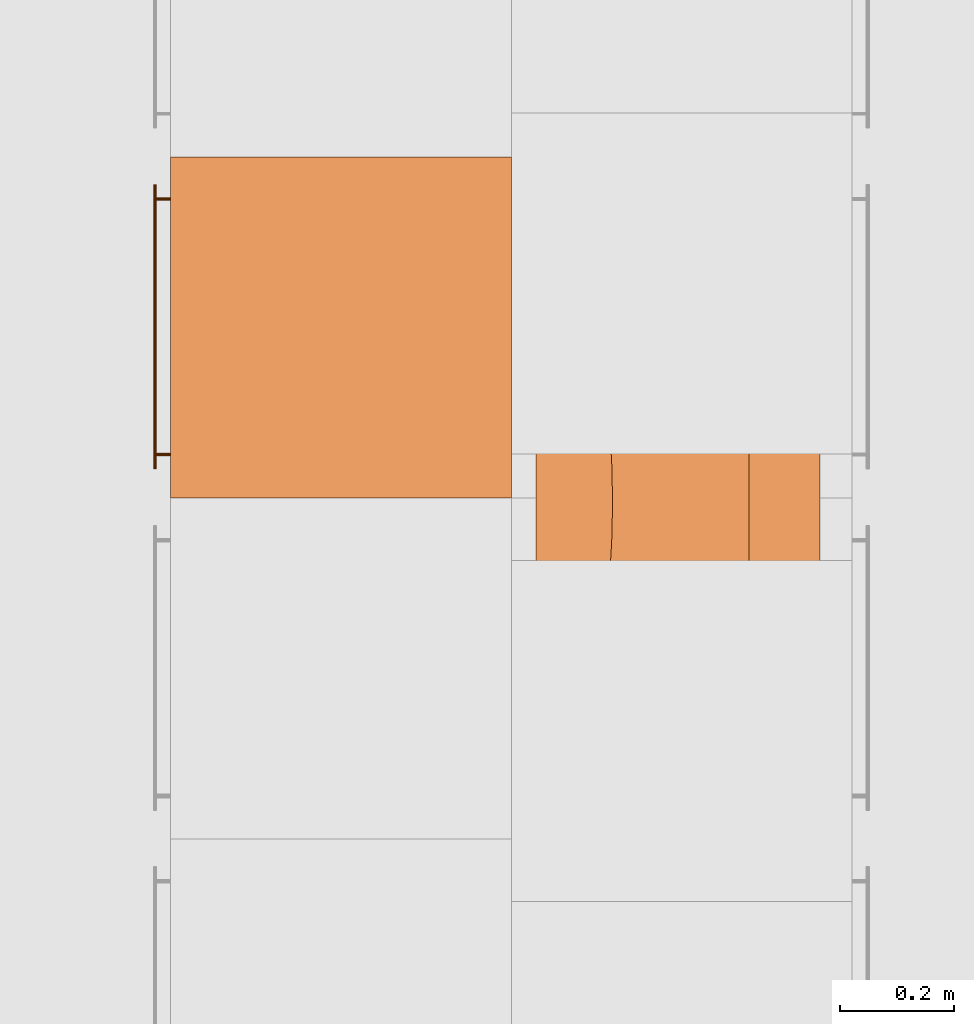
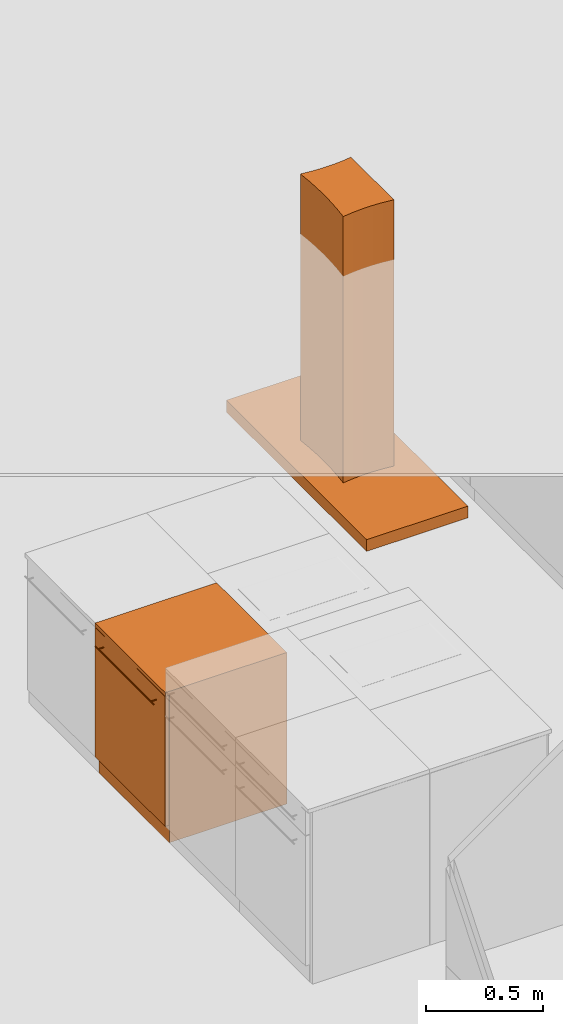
# One storey, part 143 of 167: 2 proxies.
"""IFC2X3 building model written with IfcOpenShell, lengths in millimetres."""

from ifc_helpers import new_model, entity, si_unit, converted_unit, derived_unit, money_unit, direction, frame, origin_with_axes, place, context, subcontext, project, spatial, open_shell, faceted_brep, surface_model, type_object, element, save


model = new_model("IFC2X3")

# Units and contexts
model_context = context("Model", 3, precision=0.01, world=origin_with_axes(), true_north=direction((0.0, 1.0)))
plan_context = context("Plan", 3, precision=0.01, world=origin_with_axes(), true_north=direction((0.0, 1.0)))
body_context = subcontext(model_context, "Body", "Model", "MODEL_VIEW")
ifc_project = project(units=[si_unit("LENGTHUNIT", "METRE", prefix="MILLI"), si_unit("AREAUNIT", "SQUARE_METRE"), si_unit("VOLUMEUNIT", "CUBIC_METRE"), converted_unit("PLANEANGLEUNIT", "DEGREE", entity("IfcPlaneAngleMeasure", 0.0174532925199), si_unit("PLANEANGLEUNIT", "RADIAN"), dimensions=[0, 0, 0, 0, 0, 0, 0]), si_unit("SOLIDANGLEUNIT", "STERADIAN"), money_unit("EUR"), converted_unit("TIMEUNIT", "Year", entity("IfcTimeMeasure", 31556926.0), si_unit("TIMEUNIT", "SECOND"), dimensions=[0, 0, 1, 0, 0, 0, 0]), si_unit("MASSUNIT", "GRAM", prefix="KILO"), si_unit("THERMODYNAMICTEMPERATUREUNIT", "DEGREE_CELSIUS"), si_unit("LUMINOUSINTENSITYUNIT", "LUMEN"), si_unit("ENERGYUNIT", "JOULE", prefix="MEGA"), derived_unit("THERMALCONDUCTANCEUNIT", [(si_unit("POWERUNIT", "WATT"), 1), (si_unit("LENGTHUNIT", "METRE"), -1), (si_unit("THERMODYNAMICTEMPERATUREUNIT", "KELVIN"), -1)]), derived_unit("SPECIFICHEATCAPACITYUNIT", [(si_unit("ENERGYUNIT", "JOULE"), 1), (si_unit("MASSUNIT", "GRAM", prefix="KILO"), -1), (si_unit("THERMODYNAMICTEMPERATUREUNIT", "KELVIN"), -1)]), derived_unit("MASSDENSITYUNIT", [(si_unit("MASSUNIT", "GRAM", prefix="KILO"), 1), (si_unit("VOLUMEUNIT", "CUBIC_METRE"), -1)])], contexts=[model_context, plan_context])

# Site, building, storey
site_placement = place(None, origin_with_axes())
site = spatial("IfcSite", under=ifc_project, at=site_placement, Name="Site", CompositionType="ELEMENT")
building_placement = place(site_placement, origin_with_axes())
building = spatial("IfcBuilding", under=site, at=building_placement, Name="Naam gebouw", CompositionType="ELEMENT")
storey_placement = place(building_placement, origin_with_axes())
storey = spatial("IfcBuildingStorey", under=building, at=storey_placement, Name="Begane grond", CompositionType="ELEMENT", Elevation=0.0)

# Proxies
building_element_proxy_type_1 = type_object("IfcBuildingElementProxyType", Name="Kast basis 1D 24", PredefinedType="NOTDEFINED")
proxy_1_placement = place(storey_placement, frame((25475.0, 27666.7322881, 0.0), z_axis=(0.0, 0.0, 1.0), x_axis=(0.0, -1.0, 0.0)))
element("IfcBuildingElementProxy", 1, at=proxy_1_placement, inside=storey, type_object=building_element_proxy_type_1, Name="__Object-x", context=body_context, shape_type="SurfaceModel", body=[
    faceted_brep([(0.0, 20.0, 0.0), (600.0, 20.0, 0.0), (600.0, 20.0, 90.0), (0.0, 20.0, 90.0), (0.0, 600.0, 0.0), (600.0, 600.0, 0.0), (600.0, 600.0, 90.0), (0.0, 600.0, 90.0)], [[[0, 1, 2, 3]], [[0, 4, 5, 1]], [[1, 5, 6, 2]], [[3, 2, 6, 7]], [[4, 0, 3, 7]], [[5, 4, 7, 6]]]),
    faceted_brep([(0.0, 20.0, 750.0), (20.0, 20.0, 750.0), (20.0, 20.0, 770.0), (0.0, 20.0, 770.0), (0.0, 600.0, 750.0), (20.0, 600.0, 750.0), (580.0, 600.0, 750.0), (600.0, 600.0, 750.0), (600.0, 20.0, 750.0), (580.0, 20.0, 750.0), (580.0, 20.0, 770.0), (600.0, 20.0, 770.0), (600.0, 600.0, 770.0), (580.0, 600.0, 770.0), (20.0, 600.0, 770.0), (0.0, 600.0, 770.0)], [[[0, 1, 2, 3]], [[0, 4, 5, 6, 7, 8, 9, 1]], [[1, 9, 10, 2]], [[3, 2, 10, 11, 12, 13, 14, 15]], [[4, 0, 3, 15]], [[5, 4, 15, 14]], [[6, 5, 14, 13]], [[7, 6, 13, 12]], [[8, 7, 12, 11]], [[9, 8, 11, 10]]]),
    faceted_brep([(0.0, 20.0, 90.0), (20.0, 20.0, 90.0), (20.0, 20.0, 110.0), (0.0, 20.0, 110.0), (0.0, 600.0, 90.0), (20.0, 600.0, 90.0), (580.0, 600.0, 90.0), (600.0, 600.0, 90.0), (600.0, 20.0, 90.0), (580.0, 20.0, 90.0), (580.0, 20.0, 110.0), (600.0, 20.0, 110.0), (600.0, 600.0, 110.0), (580.0, 600.0, 110.0), (20.0, 600.0, 110.0), (0.0, 600.0, 110.0)], [[[0, 1, 2, 3]], [[0, 4, 5, 6, 7, 8, 9, 1]], [[1, 9, 10, 2]], [[3, 2, 10, 11, 12, 13, 14, 15]], [[4, 0, 3, 15]], [[5, 4, 15, 14]], [[6, 5, 14, 13]], [[7, 6, 13, 12]], [[8, 7, 12, 11]], [[9, 8, 11, 10]]]),
    faceted_brep([(0.0, 20.0, 110.0), (20.0, 20.0, 110.0), (20.0, 20.0, 750.0), (0.0, 20.0, 750.0), (0.0, 600.0, 110.0), (600.0, 600.0, 110.0), (600.0, 20.0, 110.0), (580.0, 20.0, 110.0), (580.0, 580.0, 110.0), (20.0, 580.0, 110.0), (20.0, 580.0, 750.0), (580.0, 580.0, 750.0), (580.0, 20.0, 750.0), (600.0, 20.0, 750.0), (600.0, 600.0, 750.0), (0.0, 600.0, 750.0)], [[[0, 1, 2, 3]], [[0, 4, 5, 6, 7, 8, 9, 1]], [[1, 9, 10, 2]], [[3, 2, 10, 11, 12, 13, 14, 15]], [[4, 0, 3, 15]], [[5, 4, 15, 14]], [[6, 5, 14, 13]], [[7, 6, 13, 12]], [[8, 7, 12, 11]], [[9, 8, 11, 10]]]),
    faceted_brep([(580.0, 20.0, 410.0), (580.0, 580.0, 410.0), (580.0, 580.0, 430.0), (580.0, 20.0, 430.0), (20.0, 20.0, 410.0), (20.0, 580.0, 410.0), (20.0, 580.0, 430.0), (20.0, 20.0, 430.0)], [[[0, 1, 2, 3]], [[0, 4, 5, 1]], [[1, 5, 6, 2]], [[3, 2, 6, 7]], [[4, 0, 3, 7]], [[5, 4, 7, 6]]]),
    faceted_brep([(0.0, 0.0, 770.0), (600.0, 0.0, 770.0), (600.0, 0.0, 790.0), (0.0, 0.0, 790.0), (0.0, 600.0, 770.0), (600.0, 600.0, 770.0), (600.0, 600.0, 790.0), (0.0, 600.0, 790.0)], [[[0, 1, 2, 3]], [[0, 4, 5, 1]], [[1, 5, 6, 2]], [[3, 2, 6, 7]], [[4, 0, 3, 7]], [[5, 4, 7, 6]]]),
    faceted_brep([(1.5, 20.0, 91.5), (598.5, 20.0, 91.5), (598.5, 0.0, 91.5), (1.5, 0.0, 91.5), (1.5, 20.0, 768.5), (598.5, 20.0, 768.5), (598.5, 0.0, 768.5), (1.5, 0.0, 768.5)], [[[0, 1, 2, 3]], [[0, 4, 5, 1]], [[1, 5, 6, 2]], [[3, 2, 6, 7]], [[4, 0, 3, 7]], [[5, 4, 7, 6]]]),
    faceted_brep([(48.5, -28.1480502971, 704.694261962), (48.5, -29.1213203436, 705.344580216), (48.5, -29.7716385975, 706.317850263), (48.5, -30.0, 707.46590056), (48.5, -29.7716385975, 708.613950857), (48.5, -29.1213203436, 709.587220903), (48.5, -28.1480502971, 710.237539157), (48.5, -27.0, 710.46590056), (48.5, -25.8519497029, 710.237539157), (48.5, -24.8786796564, 709.587220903), (48.5, -24.2283614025, 708.613950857), (48.5, -24.0, 707.46590056), (48.5, -24.2283614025, 706.317850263), (48.5, -24.8786796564, 705.344580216), (48.5, -25.8519497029, 704.694261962), (48.5, -27.0, 704.46590056), (548.5, -28.1480502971, 704.694261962), (548.5, -29.1213203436, 705.344580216), (548.5, -29.7716385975, 706.317850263), (548.5, -30.0, 707.46590056), (548.5, -29.7716385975, 708.613950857), (548.5, -29.1213203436, 709.587220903), (548.5, -28.1480502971, 710.237539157), (548.5, -27.0, 710.46590056), (548.5, -25.8519497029, 710.237539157), (548.5, -24.8786796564, 709.587220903), (548.5, -24.2283614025, 708.613950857), (548.5, -24.0, 707.46590056), (548.5, -24.2283614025, 706.317850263), (548.5, -24.8786796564, 705.344580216), (548.5, -25.8519497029, 704.694261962), (548.5, -27.0, 704.46590056)], [[[0, 1, 2, 3, 4, 5, 6, 7, 8, 9, 10, 11, 12, 13, 14, 15]], [[1, 0, 16, 17]], [[2, 1, 17, 18]], [[3, 2, 18, 19]], [[4, 3, 19, 20]], [[5, 4, 20, 21]], [[6, 5, 21, 22]], [[7, 6, 22, 23]], [[8, 7, 23, 24]], [[9, 8, 24, 25]], [[10, 9, 25, 26]], [[11, 10, 26, 27]], [[12, 11, 27, 28]], [[13, 12, 28, 29]], [[14, 13, 29, 30]], [[15, 14, 30, 31]], [[0, 15, 31, 16]], [[16, 31, 30, 29, 28, 27, 26, 25, 24, 23, 22, 21, 20, 19, 18, 17]]]),
    surface_model("IfcShellBasedSurfaceModel", [(71.1903011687, -24.156637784, 706.509191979), (71.0, -24.0, 707.46590056), (71.0, 0.0, 707.46590056), (71.1903011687, 0.0, 706.509191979), (71.1903011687, -24.156637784, 708.422609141), (71.1903011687, 0.0, 708.422609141), (71.732233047, 0.0, 709.233667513), (72.5432914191, 0.0, 709.775599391), (73.5, 0.0, 709.96590056), (74.4567085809, 0.0, 709.775599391), (75.267766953, 0.0, 709.233667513), (75.8096988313, 0.0, 708.422609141), (76.0, 0.0, 707.46590056), (75.8096988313, 0.0, 706.509191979), (75.267766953, 0.0, 705.698133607), (74.4567085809, 0.0, 705.156201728), (73.5, 0.0, 704.96590056), (72.5432914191, 0.0, 705.156201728), (71.732233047, 0.0, 705.698133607), (71.732233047, -24.5761600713, 705.698133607), (71.732233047, -24.5761600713, 709.233667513), (72.5432914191, -25.0855049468, 709.775599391), (73.5, -25.3416876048, 709.96590056), (74.4567085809, -25.0855049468, 709.775599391), (75.267766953, -24.5761600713, 709.233667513), (75.8096988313, -24.156637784, 708.422609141), (76.0, -24.0, 707.46590056), (75.8096988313, -24.156637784, 706.509191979), (75.267766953, -24.5761600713, 705.698133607), (74.4567085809, -25.0855049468, 705.156201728), (73.5, -25.3416876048, 704.96590056), (72.5432914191, -25.0855049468, 705.156201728)], [open_shell([[[0, 1, 2, 3]], [[1, 4, 5, 2]], [[3, 2, 5, 6, 7, 8, 9, 10, 11, 12, 13, 14, 15, 16, 17, 18]], [[19, 0, 3, 18]], [[4, 20, 6, 5]], [[20, 21, 7, 6]], [[21, 22, 8, 7]], [[22, 23, 9, 8]], [[23, 24, 10, 9]], [[24, 25, 11, 10]], [[25, 26, 12, 11]], [[26, 27, 13, 12]], [[27, 28, 14, 13]], [[28, 29, 15, 14]], [[29, 30, 16, 15]], [[30, 31, 17, 16]], [[31, 19, 18, 17]]])]),
    surface_model("IfcShellBasedSurfaceModel", [(521.190301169, -24.156637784, 706.509191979), (521.0, -24.0, 707.46590056), (521.0, 0.0, 707.46590056), (521.190301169, 0.0, 706.509191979), (521.190301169, -24.156637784, 708.422609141), (521.190301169, 0.0, 708.422609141), (521.732233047, 0.0, 709.233667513), (522.543291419, 0.0, 709.775599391), (523.5, 0.0, 709.96590056), (524.456708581, 0.0, 709.775599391), (525.267766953, 0.0, 709.233667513), (525.809698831, 0.0, 708.422609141), (526.0, 0.0, 707.46590056), (525.809698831, 0.0, 706.509191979), (525.267766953, 0.0, 705.698133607), (524.456708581, 0.0, 705.156201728), (523.5, 0.0, 704.96590056), (522.543291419, 0.0, 705.156201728), (521.732233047, 0.0, 705.698133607), (521.732233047, -24.5761600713, 705.698133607), (521.732233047, -24.5761600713, 709.233667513), (522.543291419, -25.0855049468, 709.775599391), (523.5, -25.3416876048, 709.96590056), (524.456708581, -25.0855049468, 709.775599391), (525.267766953, -24.5761600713, 709.233667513), (525.809698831, -24.156637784, 708.422609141), (526.0, -24.0, 707.46590056), (525.809698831, -24.156637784, 706.509191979), (525.267766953, -24.5761600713, 705.698133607), (524.456708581, -25.0855049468, 705.156201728), (523.5, -25.3416876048, 704.96590056), (522.543291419, -25.0855049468, 705.156201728)], [open_shell([[[0, 1, 2, 3]], [[1, 4, 5, 2]], [[3, 2, 5, 6, 7, 8, 9, 10, 11, 12, 13, 14, 15, 16, 17, 18]], [[19, 0, 3, 18]], [[4, 20, 6, 5]], [[20, 21, 7, 6]], [[21, 22, 8, 7]], [[22, 23, 9, 8]], [[23, 24, 10, 9]], [[24, 25, 11, 10]], [[25, 26, 12, 11]], [[26, 27, 13, 12]], [[27, 28, 14, 13]], [[28, 29, 15, 14]], [[29, 30, 16, 15]], [[30, 31, 17, 16]], [[31, 19, 18, 17]]])]),
])
building_element_proxy_type_2 = type_object("IfcBuildingElementProxyType", Name="Afzuigkap 24", PredefinedType="NOTDEFINED")
proxy_2_placement = place(storey_placement, frame((26118.1779439, 27659.9378339, 1670.0), z_axis=(0.0, 0.0, 1.0), x_axis=(0.0, -1.0, 0.0)))
element("IfcBuildingElementProxy", 2, at=proxy_2_placement, inside=storey, type_object=building_element_proxy_type_2, Name="__FU - 004", context=body_context, shape_type="SurfaceModel", body=[
    faceted_brep([(6.66666666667, 0.0, 60.0), (1193.33333333, 0.0, 60.0), (1193.33333333, 0.0, 61.0), (6.66666666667, 0.0, 61.0), (6.66666666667, 0.5, 60.0), (0.666666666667, 0.5, 60.0), (0.666666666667, 5.0, 60.0), (0.0, 5.0, 60.0), (0.0, 495.0, 60.0), (0.666666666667, 495.0, 60.0), (0.666666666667, 499.5, 60.0), (6.66666666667, 499.5, 60.0), (6.66666666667, 500.0, 60.0), (1193.33333333, 500.0, 60.0), (1193.33333333, 499.5, 60.0), (1199.33333333, 499.5, 60.0), (1199.33333333, 495.0, 60.0), (1200.0, 495.0, 60.0), (1200.0, 5.0, 60.0), (1199.33333333, 5.0, 60.0), (1199.33333333, 0.5, 60.0), (1193.33333333, 0.5, 60.0), (1193.33333333, 0.5, 61.0), (1199.33333333, 0.5, 61.0), (1199.33333333, 5.0, 61.0), (1200.0, 5.0, 61.0), (1200.0, 495.0, 61.0), (1199.33333333, 495.0, 61.0), (1199.33333333, 499.5, 61.0), (1193.33333333, 499.5, 61.0), (1193.33333333, 500.0, 61.0), (6.66666666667, 500.0, 61.0), (6.66666666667, 499.5, 61.0), (0.666666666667, 499.5, 61.0), (0.666666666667, 495.0, 61.0), (0.0, 495.0, 61.0), (0.0, 5.0, 61.0), (0.666666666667, 5.0, 61.0), (0.666666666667, 0.5, 61.0), (6.66666666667, 0.5, 61.0)], [[[0, 1, 2, 3]], [[0, 4, 5, 6, 7, 8, 9, 10, 11, 12, 13, 14, 15, 16, 17, 18, 19, 20, 21, 1]], [[1, 21, 22, 2]], [[3, 2, 22, 23, 24, 25, 26, 27, 28, 29, 30, 31, 32, 33, 34, 35, 36, 37, 38, 39]], [[4, 0, 3, 39]], [[5, 4, 39, 38]], [[6, 5, 38, 37]], [[7, 6, 37, 36]], [[8, 7, 36, 35]], [[9, 8, 35, 34]], [[10, 9, 34, 33]], [[11, 10, 33, 32]], [[12, 11, 32, 31]], [[13, 12, 31, 30]], [[14, 13, 30, 29]], [[15, 14, 29, 28]], [[16, 15, 28, 27]], [[17, 16, 27, 26]], [[18, 17, 26, 25]], [[19, 18, 25, 24]], [[20, 19, 24, 23]], [[21, 20, 23, 22]]]),
    faceted_brep([(6.66666666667, 0.0, 0.0), (1193.33333333, 0.0, 0.0), (1193.33333333, 0.0, 60.0), (6.66666666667, 0.0, 60.0), (6.66666666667, 0.5, 0.0), (0.666666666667, 0.5, 0.0), (0.666666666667, 5.0, 0.0), (0.0, 5.0, 0.0), (0.0, 495.0, 0.0), (0.666666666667, 495.0, 0.0), (0.666666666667, 499.5, 0.0), (6.66666666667, 499.5, 0.0), (6.66666666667, 500.0, 0.0), (1193.33333333, 500.0, 0.0), (1193.33333333, 499.5, 0.0), (1199.33333333, 499.5, 0.0), (1199.33333333, 495.0, 0.0), (1200.0, 495.0, 0.0), (1200.0, 5.0, 0.0), (1199.33333333, 5.0, 0.0), (1199.33333333, 0.5, 0.0), (1193.33333333, 0.5, 0.0), (8.38406804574, 0.723624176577, 0.0), (1191.61593195, 0.723624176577, 0.0), (1191.61593195, 1.22217692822, 0.0), (1197.59856497, 1.22217692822, 0.0), (1197.59856497, 5.70915169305, 0.0), (1198.26330198, 5.70915169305, 0.0), (1198.26330198, 494.290848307, 0.0), (1197.59856497, 494.290848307, 0.0), (1197.59856497, 498.777823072, 0.0), (1191.61593195, 498.777823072, 0.0), (1191.61593195, 499.276375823, 0.0), (8.38406804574, 499.276375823, 0.0), (8.38406804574, 498.777823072, 0.0), (2.40143502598, 498.777823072, 0.0), (2.40143502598, 494.290848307, 0.0), (1.73669802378, 494.290848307, 0.0), (1.73669802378, 5.70915169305, 0.0), (2.40143502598, 5.70915169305, 0.0), (2.40143502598, 1.22217692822, 0.0), (8.38406804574, 1.22217692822, 0.0), (1193.33333333, 0.5, 60.0), (1199.33333333, 0.5, 60.0), (1199.33333333, 5.0, 60.0), (1200.0, 5.0, 60.0), (1200.0, 495.0, 60.0), (1199.33333333, 495.0, 60.0), (1199.33333333, 499.5, 60.0), (1193.33333333, 499.5, 60.0), (1193.33333333, 500.0, 60.0), (6.66666666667, 500.0, 60.0), (6.66666666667, 499.5, 60.0), (0.666666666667, 499.5, 60.0), (0.666666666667, 495.0, 60.0), (0.0, 495.0, 60.0), (0.0, 5.0, 60.0), (0.666666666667, 5.0, 60.0), (0.666666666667, 0.5, 60.0), (6.66666666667, 0.5, 60.0), (8.38406804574, 0.723624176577, 60.0), (8.38406804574, 1.22217692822, 60.0), (2.40143502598, 1.22217692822, 60.0), (2.40143502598, 5.70915169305, 60.0), (1.73669802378, 5.70915169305, 60.0), (1.73669802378, 494.290848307, 60.0), (2.40143502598, 494.290848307, 60.0), (2.40143502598, 498.777823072, 60.0), (8.38406804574, 498.777823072, 60.0), (8.38406804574, 499.276375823, 60.0), (1191.61593195, 499.276375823, 60.0), (1191.61593195, 498.777823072, 60.0), (1197.59856497, 498.777823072, 60.0), (1197.59856497, 494.290848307, 60.0), (1198.26330198, 494.290848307, 60.0), (1198.26330198, 5.70915169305, 60.0), (1197.59856497, 5.70915169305, 60.0), (1197.59856497, 1.22217692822, 60.0), (1191.61593195, 1.22217692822, 60.0), (1191.61593195, 0.723624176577, 60.0)], [[[0, 1, 2, 3]], [[0, 4, 5, 6, 7, 8, 9, 10, 11, 12, 13, 14, 15, 16, 17, 18, 19, 20, 21, 1], [22, 23, 24, 25, 26, 27, 28, 29, 30, 31, 32, 33, 34, 35, 36, 37, 38, 39, 40, 41]], [[1, 21, 42, 2]], [[3, 2, 42, 43, 44, 45, 46, 47, 48, 49, 50, 51, 52, 53, 54, 55, 56, 57, 58, 59], [60, 61, 62, 63, 64, 65, 66, 67, 68, 69, 70, 71, 72, 73, 74, 75, 76, 77, 78, 79]], [[4, 0, 3, 59]], [[5, 4, 59, 58]], [[6, 5, 58, 57]], [[7, 6, 57, 56]], [[8, 7, 56, 55]], [[9, 8, 55, 54]], [[10, 9, 54, 53]], [[11, 10, 53, 52]], [[12, 11, 52, 51]], [[13, 12, 51, 50]], [[14, 13, 50, 49]], [[15, 14, 49, 48]], [[16, 15, 48, 47]], [[17, 16, 47, 46]], [[18, 17, 46, 45]], [[19, 18, 45, 44]], [[20, 19, 44, 43]], [[21, 20, 43, 42]], [[23, 22, 60, 79]], [[24, 23, 79, 78]], [[25, 24, 78, 77]], [[26, 25, 77, 76]], [[27, 26, 76, 75]], [[28, 27, 75, 74]], [[29, 28, 74, 73]], [[30, 29, 73, 72]], [[31, 30, 72, 71]], [[32, 31, 71, 70]], [[33, 32, 70, 69]], [[34, 33, 69, 68]], [[35, 34, 68, 67]], [[36, 35, 67, 66]], [[37, 36, 66, 65]], [[38, 37, 65, 64]], [[39, 38, 64, 63]], [[40, 39, 63, 62]], [[41, 40, 62, 61]], [[22, 41, 61, 60]]]),
    surface_model("IfcShellBasedSurfaceModel", [(416.68, 125.01, 61.0), (416.666666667, 125.0, 61.0), (416.666666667, 125.0, 1450.0), (416.68, 125.01, 1450.0), (422.637755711, 174.899733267, 61.0), (425.626292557, 224.94985654, 61.0), (425.626292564, 275.05014322, 61.0), (422.637755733, 325.100266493, 61.0), (416.666666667, 375.0, 61.0), (416.68, 375.1, 61.0), (783.333333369, 375.000000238, 61.0), (777.362244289, 325.100266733, 61.0), (774.373707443, 275.05014346, 61.0), (774.373707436, 224.94985678, 61.0), (777.362244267, 174.899733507, 61.0), (783.333333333, 125.0, 61.0), (722.46128868, 130.551214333, 61.0), (661.302431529, 133.887151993, 61.0), (599.999999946, 135.0, 61.0), (538.697568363, 133.887151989, 61.0), (477.538711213, 130.551214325, 61.0), (477.538711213, 130.551214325, 1450.0), (538.697568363, 133.887151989, 1450.0), (599.999999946, 135.0, 1450.0), (661.302431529, 133.887151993, 1450.0), (722.46128868, 130.551214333, 1450.0), (783.333333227, 125.000000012, 1450.0), (777.362244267, 174.899733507, 1450.0), (774.373707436, 224.94985678, 1450.0), (774.373707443, 275.05014346, 1450.0), (777.362244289, 325.100266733, 1450.0), (783.333333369, 375.000000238, 1450.0), (416.68, 375.1, 1450.0), (416.666666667, 375.0, 1450.0), (422.637755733, 325.100266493, 1450.0), (425.626292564, 275.05014322, 1450.0), (425.626292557, 224.94985654, 1450.0), (422.637755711, 174.899733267, 1450.0), (416.666666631, 124.999999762, 1450.0), (416.666666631, 124.999999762, 61.0), (783.333333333, 125.0, 1450.0), (783.346666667, 125.01, 61.0), (783.346666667, 125.01, 1450.0), (783.333333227, 125.000000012, 61.0)], [open_shell([[[0, 1, 2, 3]], [[4, 5, 6, 7, 8, 9, 10, 11, 12, 13, 14, 15, 16, 17, 18, 19, 20, 1]], [[1, 20, 21, 2]], [[21, 22, 23, 24, 25, 26, 27, 28, 29, 30, 31, 32, 33, 34, 35, 36, 37, 38]], [[39, 0, 3, 38]], [[4, 39, 38, 37]], [[5, 4, 37, 36]], [[6, 5, 36, 35]], [[7, 6, 35, 34]], [[8, 7, 34, 33]], [[9, 8, 33, 32]], [[10, 9, 32, 31]], [[11, 10, 31, 30]], [[12, 11, 30, 29]], [[13, 12, 29, 28]], [[14, 13, 28, 27]], [[15, 14, 27, 40]], [[41, 15, 40, 42]], [[43, 41, 42, 26]], [[16, 43, 26, 25]], [[17, 16, 25, 24]], [[18, 17, 24, 23]], [[19, 18, 23, 22]], [[20, 19, 22, 21]]])]),
    faceted_brep([(1012.8, 61.9144671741, 0.0), (1016.4, 56.2763114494, -4.0), (1015.07490994, 56.2763114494, -4.0), (1012.6123649, 61.9144671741, 0.0), (1012.8, 29.1838214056, 0.0), (1016.4, 34.0919107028, -4.0), (1010.74385842, 35.8074666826, -4.0), (1005.81876836, 42.916221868, -4.0), (1007.52923419, 51.0, -4.0), (1001.29385128, 54.0, 0.0), (998.728152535, 41.874332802, 0.0), (1006.11578763, 31.2112000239, 0.0)], [[[0, 1, 2, 3]], [[1, 0, 4, 5]], [[1, 5, 6, 7, 8, 2]], [[2, 8, 9, 3]], [[4, 0, 3, 9, 10, 11]], [[5, 4, 11, 6]], [[7, 6, 11, 10]], [[8, 7, 10, 9]]]),
    faceted_brep([(1023.6, 56.2763114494, -4.0), (1027.2, 61.9144671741, 0.0), (1027.3876351, 61.9144671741, 0.0), (1024.92509006, 56.2763114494, -4.0), (1027.2, 29.1838214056, 0.0), (1023.6, 34.0919107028, -4.0), (1033.88421237, 31.2112000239, 0.0), (1041.27184747, 41.874332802, 0.0), (1038.70614872, 54.0, 0.0), (1032.47076581, 51.0, -4.0), (1034.18123164, 42.916221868, -4.0), (1029.25614158, 35.8074666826, -4.0)], [[[0, 1, 2, 3]], [[4, 1, 0, 5]], [[1, 4, 6, 7, 8, 2]], [[9, 3, 2, 8]], [[5, 0, 3, 9, 10, 11]], [[4, 5, 11, 6]], [[11, 10, 7, 6]], [[10, 9, 8, 7]]]),
    faceted_brep([(1027.2, 26.25, 0.0), (1027.2, 60.45, 0.0), (1012.8, 60.45, 0.0), (1012.8, 26.25, 0.0), (1023.6, 26.25, -4.0), (1023.6, 60.45, -4.0), (1020.0, 60.45, -6.0), (1016.4, 60.45, -4.0), (1016.4, 26.25, -4.0), (1020.0, 26.25, -6.0)], [[[0, 1, 2, 3]], [[4, 5, 1, 0]], [[1, 5, 6, 7, 2]], [[3, 2, 7, 8]], [[0, 3, 8, 9, 4]], [[9, 6, 5, 4]], [[8, 7, 6, 9]]]),
    faceted_brep([(1065.0, 35.25, 0.0), (1065.0, 35.25, -2.5), (1065.79081169, 33.6590097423, -2.5), (1065.79081169, 33.6590097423, 0.0), (1065.0, 54.75, 0.0), (1065.0, 54.75, -2.5), (1065.79081169, 56.3409902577, -2.5), (1067.7, 57.0, -2.5), (1080.3, 57.0, -2.5), (1082.20918831, 56.3409902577, -2.5), (1083.0, 54.75, -2.5), (1083.0, 35.25, -2.5), (1082.20918831, 33.6590097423, -2.5), (1080.3, 33.0, -2.5), (1067.7, 33.0, -2.5), (1067.7, 33.0, 0.0), (1080.3, 33.0, 0.0), (1082.20918831, 33.6590097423, 0.0), (1083.0, 35.25, 0.0), (1083.0, 54.75, 0.0), (1082.20918831, 56.3409902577, 0.0), (1080.3, 57.0, 0.0), (1067.7, 57.0, 0.0), (1065.79081169, 56.3409902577, 0.0)], [[[0, 1, 2, 3]], [[4, 5, 1, 0]], [[1, 5, 6, 7, 8, 9, 10, 11, 12, 13, 14, 2]], [[3, 2, 14, 15]], [[0, 3, 15, 16, 17, 18, 19, 20, 21, 22, 23, 4]], [[23, 6, 5, 4]], [[22, 7, 6, 23]], [[21, 8, 7, 22]], [[20, 9, 8, 21]], [[19, 10, 9, 20]], [[18, 11, 10, 19]], [[17, 12, 11, 18]], [[16, 13, 12, 17]], [[15, 14, 13, 16]]]),
    faceted_brep([(1080.3, 54.30111, -4.449545), (1067.7, 54.30111, -4.449545), (1067.7, 54.7499887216, -2.49997953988), (1080.3, 54.7499887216, -2.49997953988), (1080.3, 51.7434692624, -7.19463778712), (1067.7, 51.7434692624, -7.19463778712), (1067.7, 51.1956692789, -7.36964566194), (1067.7, 50.5987721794, -7.2944832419), (1067.7, 50.1845019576, -6.99831035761), (1067.7, 44.3847165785, -3.73378308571), (1067.7, 36.8310319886, -4.23127061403), (1067.7, 36.25096905, -4.29227992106), (1067.7, 35.7235586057, -4.12012231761), (1067.7, 35.4400922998, -3.77726526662), (1067.7, 35.25, -2.5), (1080.3, 35.25, -2.5), (1080.3, 35.4400922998, -3.77726526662), (1080.3, 35.7235586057, -4.12012231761), (1080.3, 36.25096905, -4.29227992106), (1080.3, 36.8310319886, -4.23127061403), (1080.3, 44.3847165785, -3.73378308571), (1080.3, 50.1845019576, -6.99831035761), (1080.3, 50.5987721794, -7.2944832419), (1080.3, 51.1956692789, -7.36964566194)], [[[0, 1, 2, 3]], [[4, 5, 1, 0]], [[1, 5, 6, 7, 8, 9, 10, 11, 12, 13, 14, 2]], [[3, 2, 14, 15]], [[0, 3, 15, 16, 17, 18, 19, 20, 21, 22, 23, 4]], [[23, 6, 5, 4]], [[22, 7, 6, 23]], [[21, 8, 7, 22]], [[20, 9, 8, 21]], [[19, 10, 9, 20]], [[18, 11, 10, 19]], [[17, 12, 11, 18]], [[16, 13, 12, 17]], [[15, 14, 13, 16]]]),
    faceted_brep([(1097.4, 35.25, 0.0), (1097.4, 35.25, -2.5), (1098.19081169, 33.6590097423, -2.5), (1098.19081169, 33.6590097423, 0.0), (1097.4, 54.75, 0.0), (1097.4, 54.75, -2.5), (1098.19081169, 56.3409902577, -2.5), (1100.1, 57.0, -2.5), (1112.7, 57.0, -2.5), (1114.60918831, 56.3409902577, -2.5), (1115.4, 54.75, -2.5), (1115.4, 35.25, -2.5), (1114.60918831, 33.6590097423, -2.5), (1112.7, 33.0, -2.5), (1100.1, 33.0, -2.5), (1100.1, 33.0, 0.0), (1112.7, 33.0, 0.0), (1114.60918831, 33.6590097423, 0.0), (1115.4, 35.25, 0.0), (1115.4, 54.75, 0.0), (1114.60918831, 56.3409902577, 0.0), (1112.7, 57.0, 0.0), (1100.1, 57.0, 0.0), (1098.19081169, 56.3409902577, 0.0)], [[[0, 1, 2, 3]], [[4, 5, 1, 0]], [[1, 5, 6, 7, 8, 9, 10, 11, 12, 13, 14, 2]], [[3, 2, 14, 15]], [[0, 3, 15, 16, 17, 18, 19, 20, 21, 22, 23, 4]], [[23, 6, 5, 4]], [[22, 7, 6, 23]], [[21, 8, 7, 22]], [[20, 9, 8, 21]], [[19, 10, 9, 20]], [[18, 11, 10, 19]], [[17, 12, 11, 18]], [[16, 13, 12, 17]], [[15, 14, 13, 16]]]),
    faceted_brep([(1112.7, 54.30111, -4.449545), (1100.1, 54.30111, -4.449545), (1100.1, 54.7499887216, -2.49997953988), (1112.7, 54.7499887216, -2.49997953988), (1112.7, 51.7434692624, -7.19463778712), (1100.1, 51.7434692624, -7.19463778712), (1100.1, 51.1956692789, -7.36964566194), (1100.1, 50.5987721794, -7.2944832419), (1100.1, 50.1845019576, -6.99831035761), (1100.1, 44.3847165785, -3.73378308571), (1100.1, 36.8310319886, -4.23127061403), (1100.1, 36.25096905, -4.29227992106), (1100.1, 35.7235586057, -4.12012231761), (1100.1, 35.4400922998, -3.77726526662), (1100.1, 35.25, -2.5), (1112.7, 35.25, -2.5), (1112.7, 35.4400922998, -3.77726526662), (1112.7, 35.7235586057, -4.12012231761), (1112.7, 36.25096905, -4.29227992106), (1112.7, 36.8310319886, -4.23127061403), (1112.7, 44.3847165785, -3.73378308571), (1112.7, 50.1845019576, -6.99831035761), (1112.7, 50.5987721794, -7.2944832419), (1112.7, 51.1956692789, -7.36964566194)], [[[0, 1, 2, 3]], [[4, 5, 1, 0]], [[1, 5, 6, 7, 8, 9, 10, 11, 12, 13, 14, 2]], [[3, 2, 14, 15]], [[0, 3, 15, 16, 17, 18, 19, 20, 21, 22, 23, 4]], [[23, 6, 5, 4]], [[22, 7, 6, 23]], [[21, 8, 7, 22]], [[20, 9, 8, 21]], [[19, 10, 9, 20]], [[18, 11, 10, 19]], [[17, 12, 11, 18]], [[16, 13, 12, 17]], [[15, 14, 13, 16]]]),
    faceted_brep([(1129.8, 35.25, 0.0), (1129.8, 35.25, -2.5), (1130.59081169, 33.6590097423, -2.5), (1130.59081169, 33.6590097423, 0.0), (1129.8, 54.75, 0.0), (1129.8, 54.75, -2.5), (1130.59081169, 56.3409902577, -2.5), (1132.5, 57.0, -2.5), (1145.1, 57.0, -2.5), (1147.00918831, 56.3409902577, -2.5), (1147.8, 54.75, -2.5), (1147.8, 35.25, -2.5), (1147.00918831, 33.6590097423, -2.5), (1145.1, 33.0, -2.5), (1132.5, 33.0, -2.5), (1132.5, 33.0, 0.0), (1145.1, 33.0, 0.0), (1147.00918831, 33.6590097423, 0.0), (1147.8, 35.25, 0.0), (1147.8, 54.75, 0.0), (1147.00918831, 56.3409902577, 0.0), (1145.1, 57.0, 0.0), (1132.5, 57.0, 0.0), (1130.59081169, 56.3409902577, 0.0)], [[[0, 1, 2, 3]], [[4, 5, 1, 0]], [[1, 5, 6, 7, 8, 9, 10, 11, 12, 13, 14, 2]], [[3, 2, 14, 15]], [[0, 3, 15, 16, 17, 18, 19, 20, 21, 22, 23, 4]], [[23, 6, 5, 4]], [[22, 7, 6, 23]], [[21, 8, 7, 22]], [[20, 9, 8, 21]], [[19, 10, 9, 20]], [[18, 11, 10, 19]], [[17, 12, 11, 18]], [[16, 13, 12, 17]], [[15, 14, 13, 16]]]),
    faceted_brep([(1145.1, 54.30111, -4.449545), (1132.5, 54.30111, -4.449545), (1132.5, 54.7499887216, -2.49997953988), (1145.1, 54.7499887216, -2.49997953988), (1145.1, 51.7434692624, -7.19463778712), (1132.5, 51.7434692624, -7.19463778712), (1132.5, 51.1956692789, -7.36964566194), (1132.5, 50.5987721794, -7.2944832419), (1132.5, 50.1845019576, -6.99831035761), (1132.5, 44.3847165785, -3.73378308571), (1132.5, 36.8310319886, -4.23127061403), (1132.5, 36.25096905, -4.29227992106), (1132.5, 35.7235586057, -4.12012231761), (1132.5, 35.4400922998, -3.77726526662), (1132.5, 35.25, -2.5), (1145.1, 35.25, -2.5), (1145.1, 35.4400922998, -3.77726526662), (1145.1, 35.7235586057, -4.12012231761), (1145.1, 36.25096905, -4.29227992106), (1145.1, 36.8310319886, -4.23127061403), (1145.1, 44.3847165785, -3.73378308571), (1145.1, 50.1845019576, -6.99831035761), (1145.1, 50.5987721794, -7.2944832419), (1145.1, 51.1956692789, -7.36964566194)], [[[0, 1, 2, 3]], [[4, 5, 1, 0]], [[1, 5, 6, 7, 8, 9, 10, 11, 12, 13, 14, 2]], [[3, 2, 14, 15]], [[0, 3, 15, 16, 17, 18, 19, 20, 21, 22, 23, 4]], [[23, 6, 5, 4]], [[22, 7, 6, 23]], [[21, 8, 7, 22]], [[20, 9, 8, 21]], [[19, 10, 9, 20]], [[18, 11, 10, 19]], [[17, 12, 11, 18]], [[16, 13, 12, 17]], [[15, 14, 13, 16]]]),
    faceted_brep([(1175.0, 80.0, -1.0), (1175.0, 475.0, -1.0), (1175.0, 475.0, 0.0), (1175.0, 80.0, 0.0), (25.0, 80.0, -1.0), (25.0, 475.0, -1.0), (25.0, 475.0, 0.0), (25.0, 80.0, 0.0)], [[[0, 1, 2, 3]], [[0, 4, 5, 1]], [[1, 5, 6, 2]], [[3, 2, 6, 7]], [[4, 0, 3, 7]], [[5, 4, 7, 6]]]),
    faceted_brep([(1198.0, 2.0, 0.0), (1198.0, 498.0, 0.0), (1198.0, 498.0, 10.0), (1198.0, 2.0, 10.0), (2.0, 2.0, 0.0), (2.0, 498.0, 0.0), (1175.0, 80.0, 0.0), (1175.0, 475.0, 0.0), (25.0, 475.0, 0.0), (25.0, 80.0, 0.0), (2.0, 498.0, 10.0), (2.0, 2.0, 10.0), (1175.0, 80.0, 10.0), (25.0, 80.0, 10.0), (25.0, 475.0, 10.0), (1175.0, 475.0, 10.0)], [[[0, 1, 2, 3]], [[0, 4, 5, 1], [6, 7, 8, 9]], [[1, 5, 10, 2]], [[3, 2, 10, 11], [12, 13, 14, 15]], [[4, 0, 3, 11]], [[5, 4, 11, 10]], [[7, 6, 12, 15]], [[8, 7, 15, 14]], [[9, 8, 14, 13]], [[6, 9, 13, 12]]]),
])

save(model, "model.ifc")
